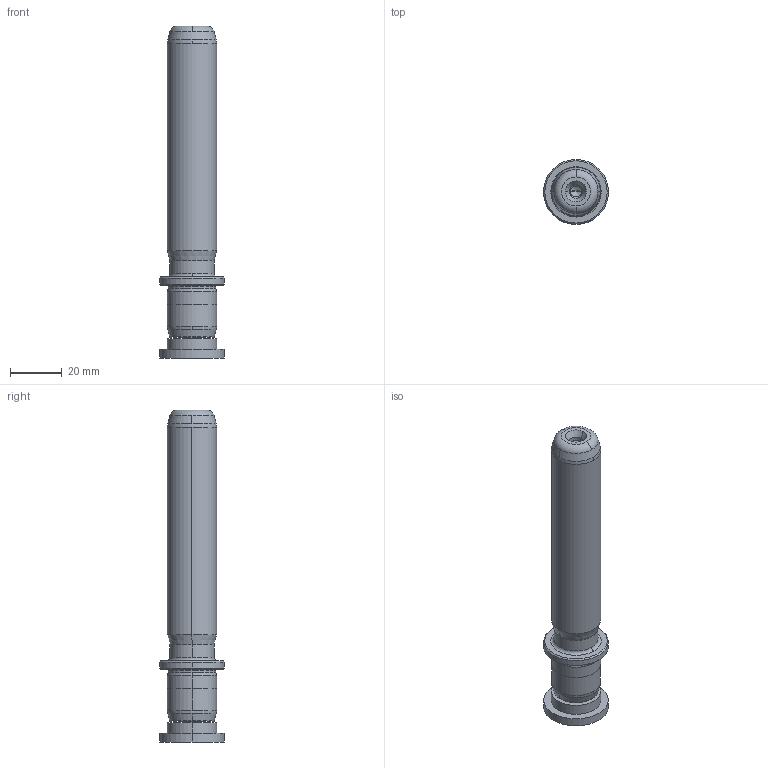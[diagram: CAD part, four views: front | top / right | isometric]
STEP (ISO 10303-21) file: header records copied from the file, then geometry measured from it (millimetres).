
FILE_DESCRIPTION((''),'2;1');
FILE_NAME('P22_019_100.stp','2009-02-02T11:03:01',(''),(''),'Mechanical Desktop 2009','Mechanical Desktop 2009',', , ');
FILE_SCHEMA(('CONFIG_CONTROL_DESIGN'));
Length unit declared in the file: millimetre
Products named in the file (2): Product; blmdl1
Assembly tree (1 placements, depth 2):
  Product
    blmdl1
Bounding box: 25 x 25 x 128 mm (x, y, z)
Volume: 36055.2 mm3; surface area: 10552.3 mm2
Topology: 3 solids, 3 shells, 99 faces, 237 edges, 149 vertices
Faces by surface type: cylinder 32, cone 28, plane 19, bspline 14, torus 6
Entity records: 3507 total; most frequent: CARTESIAN_POINT 1027, DIRECTION 562, ORIENTED_EDGE 466, AXIS2_PLACEMENT_3D 242, EDGE_CURVE 233, CIRCLE 155, VERTEX_POINT 149, EDGE_LOOP 110
